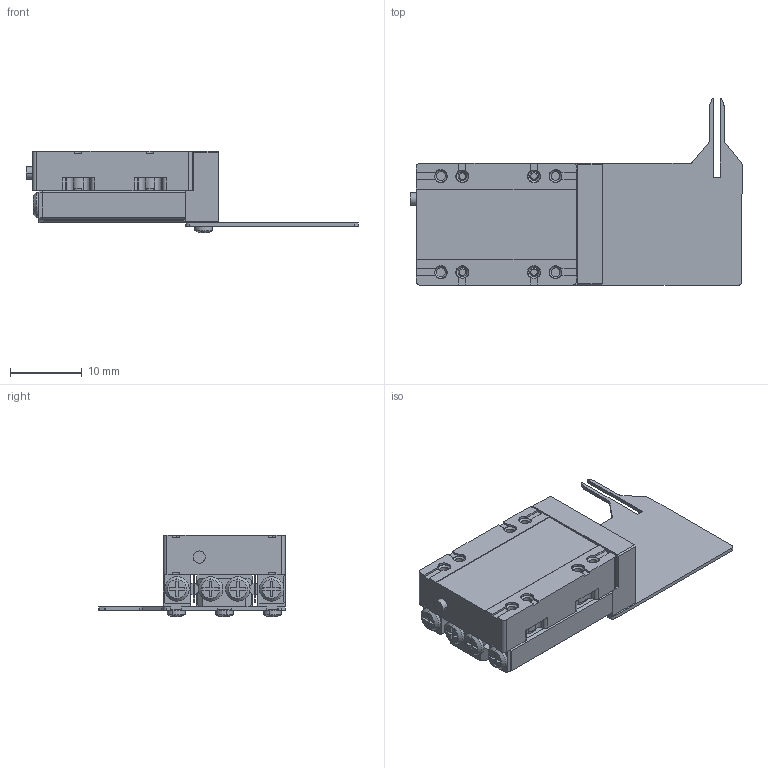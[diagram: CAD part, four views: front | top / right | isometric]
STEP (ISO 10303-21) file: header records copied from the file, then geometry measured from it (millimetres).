
FILE_DESCRIPTION (( 'STEP AP214' ), '1' );
FILE_NAME ('YGPU-P07.STEP', '2026-06-11T04:00:52', ( '' ), ( '' ), 'SwSTEP 2.0', 'SolidWorks 2022', '' );
FILE_SCHEMA (( 'AUTOMOTIVE_DESIGN' ));
Length unit declared in the file: millimetre
Products named in the file (1): YGPU-P07
Bounding box: 46.3 x 26 x 11.38 mm (x, y, z)
Volume: 3967 mm3; surface area: 5242.3 mm2
Topology: 26 solids, 26 shells, 867 faces, 2096 edges, 1299 vertices
Faces by surface type: plane 471, cylinder 208, cone 144, torus 22, sphere 22
Entity records: 35122 total; most frequent: DIRECTION 4596, CARTESIAN_POINT 4439, ORIENTED_EDGE 4176, EDGE_CURVE 2088, AXIS2_PLACEMENT_3D 1664, VERTEX_POINT 1295, VECTOR 1268, LINE 1268
